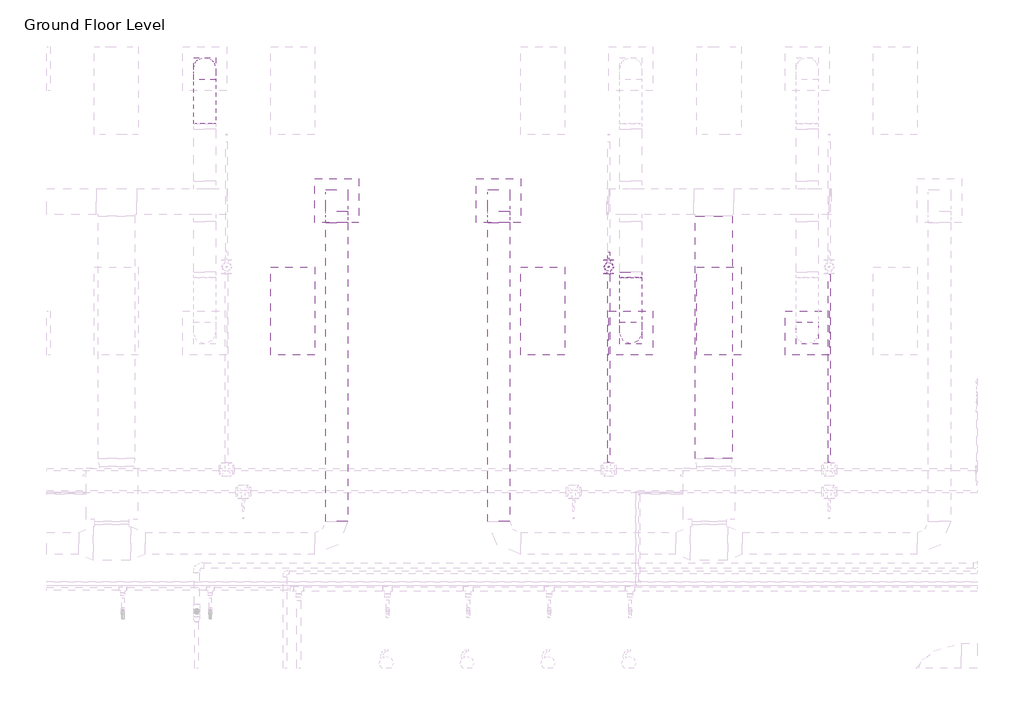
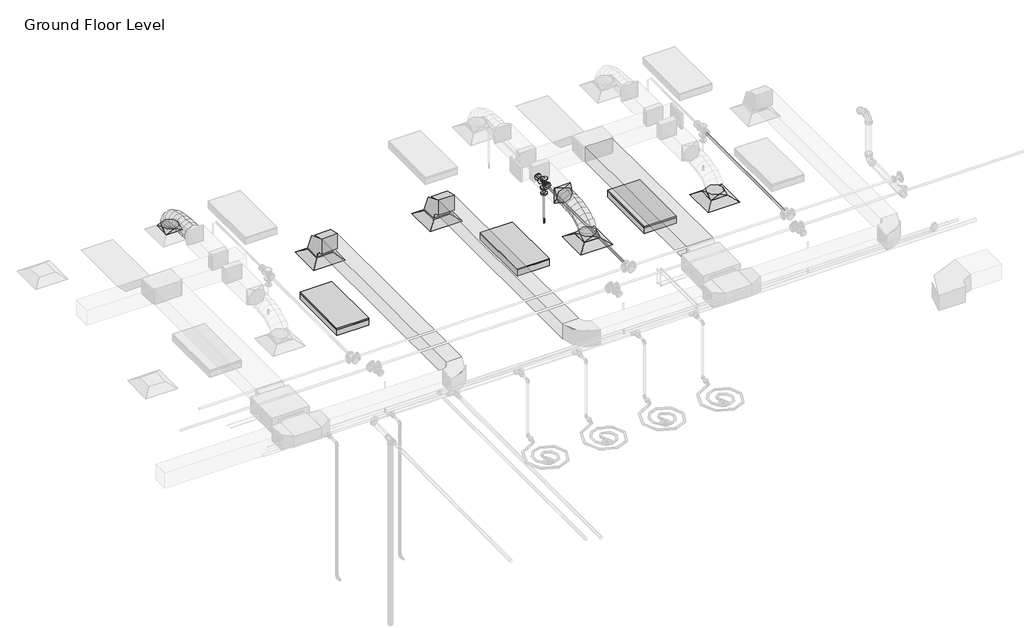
# One storey, part 57 of 75: 7 duct segments, 6 duct fittings, 4 air terminals, 3 light fixtures, 3 pipe fittings, 3 pipe segments, 1 fire suppression terminal.
"""IFC4 building model written with IfcOpenShell, lengths in millimetres."""

from ifc_helpers import new_model, si_unit, point, frame, frame_2d, origin, place, context, project, spatial, polyline, circle_curve, ellipse_curve, trimmed, segment, composite_curve, outline, extrude, transform, mapped, element, save
from ifc_brep_helpers import plane_surface, cylinder_surface, advanced_brep
from components import m_return_diffuser_600_x_600_face_300_x_300_connection_ff221211, m_rectangular_elbow_radius_1_w_618da153, m_rectangular_to_round_transition_angle_45_degree_641efff0, m_sprinkler_dry_pendent_hosted_15_mm_dry_pendent_9bda8e11, m_troffer_light_parabolic_rectangular1_0600x1200mm_4_lamp_86473d4a, m_reducer_flanged_cs_class_150_standard_d42b2106, m_tee_round_base_flanged_cs_class_150_standard_7e5987a1

model = new_model("IFC4")

# Units and contexts
model_context = context("Model", 3, world=origin())
ifc_project = project(units=[si_unit("LENGTHUNIT", "METRE", prefix="MILLI")], contexts=[model_context])

# Site, building, storey
site = spatial("IfcSite", under=ifc_project)
building = spatial("IfcBuilding", under=site)
storey = spatial("IfcBuildingStorey", under=building, Name="Ground Floor Level", Elevation=900.0)

# Air terminals
placement = place(None, origin())
m_return_diffuser_600_x_600_face_300_x_300_connection_shape = m_return_diffuser_600_x_600_face_300_x_300_connection_ff221211(model_context)
element("IfcAirTerminal", 1, ObjectType="M_Return Diffuser : 600 x 600 Face 300 x 300 Connection", at=placement, inside=storey, context=model_context, shape_type="MappedRepresentation", body=[
    mapped(m_return_diffuser_600_x_600_face_300_x_300_connection_shape, transform((-14937.2327605, 18735.2153534, 3650.0), x_axis=(1.0, 0.0, 0.0), y_axis=(0.0, 1.0, 0.0), z_axis=(0.0, 0.0, 1.0))),
])
element("IfcAirTerminal", 2, ObjectType="M_Return Diffuser : 600 x 600 Face 300 x 300 Connection", at=placement, inside=storey, context=model_context, shape_type="MappedRepresentation", body=[
    mapped(m_return_diffuser_600_x_600_face_300_x_300_connection_shape, transform((-12737.2327605, 18735.2153534, 3650.0), x_axis=(1.0, 0.0, 0.0), y_axis=(0.0, 1.0, 0.0), z_axis=(0.0, 0.0, 1.0))),
])
element("IfcAirTerminal", 3, ObjectType="M_Supply Diffuser : 600 x 600 Face 300 x 300 Connection", at=placement, inside=storey, context=model_context, shape_type="MappedRepresentation", body=[
    mapped(m_return_diffuser_600_x_600_face_300_x_300_connection_shape, transform((-10937.2327605, 16935.2153534, 3650.0), x_axis=(1.0, 0.0, 0.0), y_axis=(0.0, 1.0, 0.0), z_axis=(0.0, 0.0, 1.0))),
])
element("IfcAirTerminal", 4, ObjectType="M_Supply Diffuser : 600 x 600 Face 300 x 300 Connection", at=placement, inside=storey, context=model_context, shape_type="MappedRepresentation", body=[
    mapped(m_return_diffuser_600_x_600_face_300_x_300_connection_shape, transform((-8537.2327605, 16935.2153534, 3650.0), x_axis=(1.0, 0.0, 0.0), y_axis=(0.0, 1.0, 0.0), z_axis=(0.0, 0.0, 1.0))),
])

# Duct fittings
m_rectangular_elbow_radius_1_w_shape = m_rectangular_elbow_radius_1_w_618da153(model_context)
element("IfcDuctFitting", 5, ObjectType="M_Rectangular Elbow - Radius : 1 W", at=placement, inside=storey, context=model_context, shape_type="MappedRepresentation", body=[
    mapped(m_rectangular_elbow_radius_1_w_shape, transform((-14937.2327605, 18735.2153534, 4075.2881511), x_axis=(0.0, 0.0, 1.0), y_axis=(0.0, -1.0, 0.0), z_axis=(1.0, 0.0, 0.0))),
])
element("IfcDuctFitting", 6, ObjectType="M_Rectangular Elbow - Radius : 1 W", at=placement, inside=storey, context=model_context, shape_type="MappedRepresentation", body=[
    mapped(m_rectangular_elbow_radius_1_w_shape, transform((-12737.2327605, 18735.2153534, 4075.2872564), x_axis=(0.0, 0.0, 1.0), y_axis=(0.0, -1.0, 0.0), z_axis=(1.0, 0.0, 0.0))),
])
m_rectangular_to_round_transition_angle_45_degree_shape = m_rectangular_to_round_transition_angle_45_degree_641efff0(model_context)
element("IfcDuctFitting", 7, ObjectType="M_Rectangular to Round Transition - Angle : 45 Degree", at=placement, inside=storey, context=model_context, shape_type="MappedRepresentation", body=[
    mapped(m_rectangular_to_round_transition_angle_45_degree_shape, transform((-16737.2327605, 20535.2153534, 3751.6), x_axis=(0.0, 0.0, 1.0), y_axis=(-1.0, 0.0, 0.0), z_axis=(0.0, -1.0, 0.0))),
])
element("IfcDuctFitting", 8, ObjectType="M_Rectangular to Round Transition - Angle : 45 Degree", at=placement, inside=storey, context=model_context, shape_type="MappedRepresentation", body=[
    mapped(m_rectangular_to_round_transition_angle_45_degree_shape, transform((-10937.2327605, 16935.2153534, 3751.6), x_axis=(0.0, 0.0, 1.0), y_axis=(-1.0, 0.0, 0.0), z_axis=(0.0, -1.0, 0.0))),
])
element("IfcDuctFitting", 9, ObjectType="M_Rectangular to Round Transition - Angle : 45 Degree", at=placement, inside=storey, context=model_context, shape_type="MappedRepresentation", body=[
    mapped(m_rectangular_to_round_transition_angle_45_degree_shape, transform((-10937.2327605, 17762.5527048, 4099.9985799), x_axis=(0.0, -1.0, 0.0), y_axis=(1.0, 0.0, 0.0), z_axis=(0.0, 0.0, 1.0))),
])
element("IfcDuctFitting", 10, ObjectType="M_Rectangular to Round Transition - Angle : 45 Degree", at=placement, inside=storey, context=model_context, shape_type="MappedRepresentation", body=[
    mapped(m_rectangular_to_round_transition_angle_45_degree_shape, transform((-8537.2327605, 16935.2153534, 3751.6), x_axis=(0.0, 0.0, 1.0), y_axis=(-1.0, 0.0, 0.0), z_axis=(0.0, -1.0, 0.0))),
])

# Duct segments
element("IfcDuctSegment", 11, ObjectType="Flex - Round", at=placement, inside=storey, context=model_context, shape_type="AdvancedBrep", body=[
    advanced_brep(
    [(-16587.2327605, 20535.2153534, 3826.6), (-16737.2327605, 20385.2153534, 3826.6), (-16887.2327605, 20535.2153534, 3826.6), (-16737.2327605, 20685.2153534, 3826.6), (-16587.2327605, 20535.2153534, 3857.9377382), (-16737.2327605, 20385.2153534, 3832.2944832), (-16887.2327605, 20535.2153534, 3857.9377382), (-16737.2327605, 20685.2153534, 3883.5809933), (-16587.2327605, 20518.1994031, 3906.2505845), (-16737.2327605, 20384.4614644, 3834.4349763), (-16887.2327605, 20518.1994031, 3906.2505845), (-16737.2327605, 20651.9373419, 3978.0661927), (-16587.2327605, 20471.0154746, 3968.7112839), (-16737.2327605, 20366.8096846, 3857.8018842), (-16887.2327605, 20471.0154746, 3968.7112839), (-16737.2327605, 20575.2212646, 4079.6206836), (-16587.2327605, 20399.4594512, 4016.069955), (-16737.2327605, 20330.5255676, 3881.8161806), (-16887.2327605, 20399.4594512, 4016.069955), (-16737.2327605, 20468.3933347, 4150.3237294), (-16587.2327605, 20309.3272161, 4050.4144545), (-16737.2327605, 20265.7666411, 3906.4922903), (-16887.2327605, 20309.3272161, 4050.4144545), (-16737.2327605, 20352.8877912, 4194.3366186), (-16587.2327605, 20206.4146528, 4073.832639), (-16737.2327605, 20179.8539072, 3926.0420925), (-16887.2327605, 20206.4146528, 4073.832639), (-16737.2327605, 20232.9753985, 4221.6231855), (-16587.2327605, 20096.5176446, 4088.4123653), (-16737.2327605, 20081.3668973, 3939.1080865), (-16887.2327605, 20096.5176446, 4088.4123653), (-16737.2327605, 20111.668392, 4237.7166441), (-16587.2327605, 19985.4320749, 4096.2414901), (-16737.2327605, 19977.9268673, 3946.3983665), (-16887.2327605, 19985.4320749, 4096.2414901), (-16737.2327605, 19992.9372825, 4246.0846137), (-16587.2327605, 19878.9538269, 4099.4078701), (-16737.2327605, 19876.2624046, 3949.4215972), (-16887.2327605, 19878.9538269, 4099.4078701), (-16737.2327605, 19881.6452491, 4249.3941429), (-16587.2327605, 19782.878784, 4099.9993619), (-16737.2327605, 19783.8022506, 4249.9965192), (-16887.2327605, 19782.878784, 4099.9993619), (-16737.2327605, 19781.9553174, 3950.0022045)],
    [
        (0, 1, circle_curve(frame((-16737.2327605, 20535.2153534, 3826.6), z_axis=(0.0, 0.0, -1.0), x_axis=(1.0, 0.0, 0.0)), 150.0)),
        (1, 2, circle_curve(frame((-16737.2327605, 20535.2153534, 3826.6), z_axis=(0.0, 0.0, -1.0), x_axis=(1.0, 0.0, 0.0)), 150.0)),
        (2, 3, circle_curve(frame((-16737.2327605, 20535.2153534, 3826.6), z_axis=(0.0, 0.0, -1.0), x_axis=(1.0, 0.0, 0.0)), 150.0)),
        (3, 0, circle_curve(frame((-16737.2327605, 20535.2153534, 3826.6), z_axis=(0.0, 0.0, -1.0), x_axis=(1.0, 0.0, 0.0)), 150.0)),
        (0, 4),
        (4, 5, ellipse_curve(frame((-16737.2327605, 20535.2153534, 3857.9377382), z_axis=(0.0, 0.16851035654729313, -0.9856998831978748), x_axis=(0.0, -0.9856998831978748, -0.16851035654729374)), 152.1761365, 150.0)),
        (5, 1),
        (5, 6, ellipse_curve(frame((-16737.2327605, 20535.2153534, 3857.9377382), z_axis=(0.0, 0.16851035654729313, -0.9856998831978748), x_axis=(0.0, -0.9856998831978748, -0.16851035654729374)), 152.1761365, 150.0)),
        (6, 2),
        (6, 7, ellipse_curve(frame((-16737.2327605, 20535.2153534, 3857.9377382), z_axis=(0.0, 0.16851035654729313, -0.9856998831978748), x_axis=(0.0, -0.9856998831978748, -0.16851035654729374)), 152.1761365, 150.0)),
        (7, 3),
        (7, 4, ellipse_curve(frame((-16737.2327605, 20535.2153534, 3857.9377382), z_axis=(0.0, 0.16851035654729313, -0.9856998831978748), x_axis=(0.0, -0.9856998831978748, -0.16851035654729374)), 152.1761365, 150.0)),
        (4, 8),
        (8, 9, ellipse_curve(frame((-16737.2327605, 20518.1994031, 3906.2505845), z_axis=(0.0, 0.47309279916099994, -0.8810126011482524), x_axis=(0.0, -0.8810126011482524, -0.4730927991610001)), 151.8002564, 150.0)),
        (9, 5),
        (9, 10, ellipse_curve(frame((-16737.2327605, 20518.1994031, 3906.2505845), z_axis=(0.0, 0.47309279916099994, -0.8810126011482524), x_axis=(0.0, -0.8810126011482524, -0.4730927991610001)), 151.8002564, 150.0)),
        (10, 6),
        (10, 11, ellipse_curve(frame((-16737.2327605, 20518.1994031, 3906.2505845), z_axis=(0.0, 0.47309279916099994, -0.8810126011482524), x_axis=(0.0, -0.8810126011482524, -0.4730927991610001)), 151.8002564, 150.0)),
        (11, 7),
        (11, 8, ellipse_curve(frame((-16737.2327605, 20518.1994031, 3906.2505845), z_axis=(0.0, 0.47309279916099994, -0.8810126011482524), x_axis=(0.0, -0.8810126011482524, -0.4730927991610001)), 151.8002564, 150.0)),
        (8, 12),
        (12, 13, ellipse_curve(frame((-16737.2327605, 20471.0154746, 3968.7112839), z_axis=(0.0, 0.7287884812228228, -0.6847388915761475), x_axis=(0.0, -0.6847388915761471, -0.7287884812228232)), 152.1832501, 150.0)),
        (13, 9),
        (13, 14, ellipse_curve(frame((-16737.2327605, 20471.0154746, 3968.7112839), z_axis=(0.0, 0.7287884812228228, -0.6847388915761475), x_axis=(0.0, -0.6847388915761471, -0.7287884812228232)), 152.1832501, 150.0)),
        (14, 10),
        (14, 15, ellipse_curve(frame((-16737.2327605, 20471.0154746, 3968.7112839), z_axis=(0.0, 0.7287884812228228, -0.6847388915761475), x_axis=(0.0, -0.6847388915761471, -0.7287884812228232)), 152.1832501, 150.0)),
        (15, 11),
        (15, 12, ellipse_curve(frame((-16737.2327605, 20471.0154746, 3968.7112839), z_axis=(0.0, 0.7287884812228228, -0.6847388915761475), x_axis=(0.0, -0.6847388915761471, -0.7287884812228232)), 152.1832501, 150.0)),
        (12, 16),
        (16, 17, ellipse_curve(frame((-16737.2327605, 20399.4594512, 4016.069955), z_axis=(0.0, 0.8895865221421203, -0.4567667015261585), x_axis=(0.0, -0.45676670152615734, -0.8895865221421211)), 150.9170508, 150.0)),
        (17, 13),
        (17, 18, ellipse_curve(frame((-16737.2327605, 20399.4594512, 4016.069955), z_axis=(0.0, 0.8895865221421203, -0.4567667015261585), x_axis=(0.0, -0.45676670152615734, -0.8895865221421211)), 150.9170508, 150.0)),
        (18, 14),
        (18, 19, ellipse_curve(frame((-16737.2327605, 20399.4594512, 4016.069955), z_axis=(0.0, 0.8895865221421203, -0.4567667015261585), x_axis=(0.0, -0.45676670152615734, -0.8895865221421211)), 150.9170508, 150.0)),
        (19, 15),
        (19, 16, ellipse_curve(frame((-16737.2327605, 20399.4594512, 4016.069955), z_axis=(0.0, 0.8895865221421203, -0.4567667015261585), x_axis=(0.0, -0.45676670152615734, -0.8895865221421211)), 150.9170508, 150.0)),
        (16, 20),
        (20, 21, ellipse_curve(frame((-16737.2327605, 20309.3272161, 4050.4144545), z_axis=(0.0, 0.9571207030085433, -0.28968941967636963), x_axis=(0.0, -0.2896894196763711, -0.9571207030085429)), 150.3699206, 150.0)),
        (21, 17),
        (21, 22, ellipse_curve(frame((-16737.2327605, 20309.3272161, 4050.4144545), z_axis=(0.0, 0.9571207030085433, -0.28968941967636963), x_axis=(0.0, -0.2896894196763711, -0.9571207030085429)), 150.3699206, 150.0)),
        (22, 18),
        (22, 23, ellipse_curve(frame((-16737.2327605, 20309.3272161, 4050.4144545), z_axis=(0.0, 0.9571207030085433, -0.28968941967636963), x_axis=(0.0, -0.2896894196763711, -0.9571207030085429)), 150.3699206, 150.0)),
        (23, 19),
        (23, 20, ellipse_curve(frame((-16737.2327605, 20309.3272161, 4050.4144545), z_axis=(0.0, 0.9571207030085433, -0.28968941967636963), x_axis=(0.0, -0.2896894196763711, -0.9571207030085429)), 150.3699206, 150.0)),
        (20, 24),
        (24, 25, ellipse_curve(frame((-16737.2327605, 20206.4146528, 4073.832639), z_axis=(0.0, 0.9842315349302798, -0.17688495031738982), x_axis=(0.0, -0.1768849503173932, -0.9842315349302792)), 150.1583126, 150.0)),
        (25, 21),
        (25, 26, ellipse_curve(frame((-16737.2327605, 20206.4146528, 4073.832639), z_axis=(0.0, 0.9842315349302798, -0.17688495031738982), x_axis=(0.0, -0.1768849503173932, -0.9842315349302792)), 150.1583126, 150.0)),
        (26, 22),
        (26, 27, ellipse_curve(frame((-16737.2327605, 20206.4146528, 4073.832639), z_axis=(0.0, 0.9842315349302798, -0.17688495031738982), x_axis=(0.0, -0.1768849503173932, -0.9842315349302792)), 150.1583126, 150.0)),
        (27, 23),
        (27, 24, ellipse_curve(frame((-16737.2327605, 20206.4146528, 4073.832639), z_axis=(0.0, 0.9842315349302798, -0.17688495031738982), x_axis=(0.0, -0.1768849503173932, -0.9842315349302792)), 150.1583126, 150.0)),
        (24, 28),
        (28, 29, ellipse_curve(frame((-16737.2327605, 20096.5176446, 4088.4123653), z_axis=(0.0, 0.9948907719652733, -0.10095717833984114), x_axis=(0.0, -0.10095717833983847, -0.9948907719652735)), 150.0710259, 150.0)),
        (29, 25),
        (29, 30, ellipse_curve(frame((-16737.2327605, 20096.5176446, 4088.4123653), z_axis=(0.0, 0.9948907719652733, -0.10095717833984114), x_axis=(0.0, -0.10095717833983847, -0.9948907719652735)), 150.0710259, 150.0)),
        (30, 26),
        (30, 31, ellipse_curve(frame((-16737.2327605, 20096.5176446, 4088.4123653), z_axis=(0.0, 0.9948907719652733, -0.10095717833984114), x_axis=(0.0, -0.10095717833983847, -0.9948907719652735)), 150.0710259, 150.0)),
        (31, 27),
        (31, 28, ellipse_curve(frame((-16737.2327605, 20096.5176446, 4088.4123653), z_axis=(0.0, 0.9948907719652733, -0.10095717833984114), x_axis=(0.0, -0.10095717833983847, -0.9948907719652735)), 150.0710259, 150.0)),
        (28, 32),
        (32, 33, ellipse_curve(frame((-16737.2327605, 19985.4320749, 4096.2414901), z_axis=(0.0, 0.9987479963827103, -0.050024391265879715), x_axis=(0.0, -0.05002439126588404, -0.9987479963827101)), 150.0309629, 150.0)),
        (33, 29),
        (33, 34, ellipse_curve(frame((-16737.2327605, 19985.4320749, 4096.2414901), z_axis=(0.0, 0.9987479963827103, -0.050024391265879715), x_axis=(0.0, -0.05002439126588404, -0.9987479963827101)), 150.0309629, 150.0)),
        (34, 30),
        (34, 35, ellipse_curve(frame((-16737.2327605, 19985.4320749, 4096.2414901), z_axis=(0.0, 0.9987479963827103, -0.050024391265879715), x_axis=(0.0, -0.05002439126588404, -0.9987479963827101)), 150.0309629, 150.0)),
        (35, 31),
        (35, 32, ellipse_curve(frame((-16737.2327605, 19985.4320749, 4096.2414901), z_axis=(0.0, 0.9987479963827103, -0.050024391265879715), x_axis=(0.0, -0.05002439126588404, -0.9987479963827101)), 150.0309629, 150.0)),
        (32, 36),
        (36, 37, ellipse_curve(frame((-16737.2327605, 19878.9538269, 4099.4078701), z_axis=(0.0, 0.9998390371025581, -0.01794156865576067), x_axis=(0.0, -0.017941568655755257, -0.9998390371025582)), 150.0104189, 150.0)),
        (37, 33),
        (37, 38, ellipse_curve(frame((-16737.2327605, 19878.9538269, 4099.4078701), z_axis=(0.0, 0.9998390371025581, -0.01794156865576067), x_axis=(0.0, -0.017941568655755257, -0.9998390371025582)), 150.0104189, 150.0)),
        (38, 34),
        (38, 39, ellipse_curve(frame((-16737.2327605, 19878.9538269, 4099.4078701), z_axis=(0.0, 0.9998390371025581, -0.01794156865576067), x_axis=(0.0, -0.017941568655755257, -0.9998390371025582)), 150.0104189, 150.0)),
        (39, 35),
        (39, 36, ellipse_curve(frame((-16737.2327605, 19878.9538269, 4099.4078701), z_axis=(0.0, 0.9998390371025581, -0.01794156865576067), x_axis=(0.0, -0.017941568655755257, -0.9998390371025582)), 150.0104189, 150.0)),
        (40, 41, circle_curve(frame((-16737.2327605, 19782.878784, 4099.9993619), z_axis=(0.0, -0.9999810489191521, 0.0061564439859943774), x_axis=(1.0, 0.0, 0.0)), 150.0)),
        (41, 42, circle_curve(frame((-16737.2327605, 19782.878784, 4099.9993619), z_axis=(0.0, -0.9999810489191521, 0.0061564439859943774), x_axis=(1.0, 0.0, 0.0)), 150.0)),
        (42, 43, circle_curve(frame((-16737.2327605, 19782.878784, 4099.9993619), z_axis=(0.0, -0.9999810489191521, 0.0061564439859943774), x_axis=(1.0, 0.0, 0.0)), 150.0)),
        (43, 40, circle_curve(frame((-16737.2327605, 19782.878784, 4099.9993619), z_axis=(0.0, -0.9999810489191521, 0.0061564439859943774), x_axis=(1.0, 0.0, 0.0)), 150.0)),
        (36, 40),
        (43, 37),
        (42, 38),
        (41, 39),
    ],
    [
        plane_surface(frame((-16737.2327605, 20385.2153534, 3826.6), z_axis=(0.0, 0.0, -1.0), x_axis=(1.0, 0.0, 0.0))),
        cylinder_surface(frame((-16737.2327605, 20535.2153534, 3826.6), z_axis=(0.0, 0.0, -1.0), x_axis=(1.0, 0.0, 0.0)), 150.0),
        cylinder_surface(frame((-16737.2327605, 20535.2153534, 3857.9377382), z_axis=(0.0, 0.33220127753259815, -0.9432085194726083), x_axis=(1.0, 0.0, 0.0)), 150.0),
        cylinder_surface(frame((-16737.2327605, 20518.1994031, 3906.2505845), z_axis=(0.0, 0.6027631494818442, -0.79792016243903), x_axis=(1.0, 0.0, 0.0)), 150.0),
        cylinder_surface(frame((-16737.2327605, 20471.0154746, 3968.7112839), z_axis=(0.0, 0.833903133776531, -0.5519108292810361), x_axis=(1.0, 0.0, 0.0)), 150.0),
        cylinder_surface(frame((-16737.2327605, 20399.4594512, 4016.069955), z_axis=(0.0, 0.9344587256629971, -0.3560714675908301), x_axis=(1.0, 0.0, 0.0)), 150.0),
        cylinder_surface(frame((-16737.2327605, 20309.3272161, 4050.4144545), z_axis=(0.0, 0.9750735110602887, -0.22188205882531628), x_axis=(1.0, 0.0, 0.0)), 150.0),
        cylinder_surface(frame((-16737.2327605, 20206.4146528, 4073.832639), z_axis=(0.0, 0.9913141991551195, -0.13151486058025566), x_axis=(1.0, 0.0, 0.0)), 150.0),
        cylinder_surface(frame((-16737.2327605, 20096.5176446, 4088.4123653), z_axis=(0.0, 0.997525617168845, -0.07030393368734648), x_axis=(1.0, 0.0, 0.0)), 150.0),
        cylinder_surface(frame((-16737.2327605, 19985.4320749, 4096.2414901), z_axis=(0.0, 0.9995581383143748, -0.029724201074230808), x_axis=(1.0, 0.0, 0.0)), 150.0),
        plane_surface(frame((-16737.2327605, 19781.9553174, 3950.0022045), z_axis=(0.0, -0.999981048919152, 0.0061564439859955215), x_axis=(1.0, 0.0, 0.0))),
        cylinder_surface(frame((-16737.2327605, 19878.9538269, 4099.4078701), z_axis=(0.0, 0.9999810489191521, -0.0061564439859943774), x_axis=(1.0, 0.0, 0.0)), 150.0),
    ],
    [
        (0, [[1, 2, 3, 4]]),
        (1, [[-1, 5, 6, 7]]),
        (1, [[-2, -7, 8, 9]]),
        (1, [[-3, -9, 10, 11]]),
        (1, [[-4, -11, 12, -5]]),
        (2, [[-6, 13, 14, 15]]),
        (2, [[-8, -15, 16, 17]]),
        (2, [[-10, -17, 18, 19]]),
        (2, [[-12, -19, 20, -13]]),
        (3, [[-14, 21, 22, 23]]),
        (3, [[-16, -23, 24, 25]]),
        (3, [[-18, -25, 26, 27]]),
        (3, [[-20, -27, 28, -21]]),
        (4, [[-22, 29, 30, 31]]),
        (4, [[-24, -31, 32, 33]]),
        (4, [[-26, -33, 34, 35]]),
        (4, [[-28, -35, 36, -29]]),
        (5, [[-30, 37, 38, 39]]),
        (5, [[-32, -39, 40, 41]]),
        (5, [[-34, -41, 42, 43]]),
        (5, [[-36, -43, 44, -37]]),
        (6, [[-38, 45, 46, 47]]),
        (6, [[-40, -47, 48, 49]]),
        (6, [[-42, -49, 50, 51]]),
        (6, [[-44, -51, 52, -45]]),
        (7, [[-46, 53, 54, 55]]),
        (7, [[-48, -55, 56, 57]]),
        (7, [[-50, -57, 58, 59]]),
        (7, [[-52, -59, 60, -53]]),
        (8, [[-54, 61, 62, 63]]),
        (8, [[-56, -63, 64, 65]]),
        (8, [[-58, -65, 66, 67]]),
        (8, [[-60, -67, 68, -61]]),
        (9, [[-62, 69, 70, 71]]),
        (9, [[-64, -71, 72, 73]]),
        (9, [[-66, -73, 74, 75]]),
        (9, [[-68, -75, 76, -69]]),
        (10, [[77, 78, 79, 80]]),
        (11, [[-70, 81, -80, 82]]),
        (11, [[-72, -82, -79, 83]]),
        (11, [[-74, -83, -78, 84]]),
        (11, [[-76, -84, -77, -81]]),
    ],
),
])
element("IfcDuctSegment", 12, ObjectType="Flex - Round", at=placement, inside=storey, context=model_context, shape_type="AdvancedBrep", body=[
    advanced_brep(
    [(-10787.2327605, 16935.2153534, 3826.6), (-10937.2327605, 16785.2153534, 3826.6), (-11087.2327605, 16935.2153534, 3826.6), (-10937.2327605, 17085.2153534, 3826.6), (-10787.2327605, 16935.2153534, 3857.9377711), (-10937.2327605, 16785.2153534, 3883.5810662), (-11087.2327605, 16935.2153534, 3857.9377711), (-10937.2327605, 17085.2153534, 3832.2944759), (-10787.2327605, 16952.2313253, 3906.2505987), (-10937.2327605, 16818.4934358, 3978.0663103), (-11087.2327605, 16952.2313253, 3906.2505987), (-10937.2327605, 17085.9692148, 3834.4348871), (-10787.2327605, 16999.4153129, 3968.7112481), (-10937.2327605, 16895.2096567, 4079.620783), (-11087.2327605, 16999.4153129, 3968.7112481), (-10937.2327605, 17103.620969, 3857.8017132), (-10787.2327605, 17070.9714237, 4016.0698216), (-10937.2327605, 17002.0377511, 4150.3237055), (-11087.2327605, 17070.9714237, 4016.0698216), (-10937.2327605, 17139.9050963, 3881.8159377), (-10787.2327605, 17161.1037654, 4050.4141926), (-10937.2327605, 17117.5434209, 4194.3364261), (-11087.2327605, 17161.1037654, 4050.4141926), (-10937.2327605, 17204.6641099, 3906.491959), (-10787.2327605, 17264.0164456, 4073.8322345), (-10937.2327605, 17237.4559185, 4221.6228196), (-11087.2327605, 17264.0164456, 4073.8322345), (-10937.2327605, 17290.5769728, 3926.0416493), (-10787.2327605, 17373.9135721, 4088.4118207), (-10937.2327605, 17358.7630147, 4237.7161183), (-11087.2327605, 17373.9135721, 4088.4118207), (-10937.2327605, 17389.0641294, 3939.1075232), (-10787.2327605, 17484.9992523, 4096.2408248), (-10937.2327605, 17477.4941925, 4246.0839553), (-11087.2327605, 17484.9992523, 4096.2408248), (-10937.2327605, 17492.5043121, 3946.3976942), (-10787.2327605, 17591.477594, 4099.40712), (-10937.2327605, 17588.7862586, 4249.393394), (-11087.2327605, 17591.477594, 4099.40712), (-10937.2327605, 17594.1689294, 3949.4208461), (-10787.2327605, 17687.5527048, 4099.9985799), (-10937.2327605, 17688.4761208, 3950.0014223), (-11087.2327605, 17687.5527048, 4099.9985799), (-10937.2327605, 17686.6292887, 4249.9957376)],
    [
        (0, 1, circle_curve(frame((-10937.2327605, 16935.2153534, 3826.6), z_axis=(0.0, 0.0, -1.0), x_axis=(1.0, 0.0, 0.0)), 150.0)),
        (1, 2, circle_curve(frame((-10937.2327605, 16935.2153534, 3826.6), z_axis=(0.0, 0.0, -1.0), x_axis=(1.0, 0.0, 0.0)), 150.0)),
        (2, 3, circle_curve(frame((-10937.2327605, 16935.2153534, 3826.6), z_axis=(0.0, 0.0, -1.0), x_axis=(1.0, 0.0, 0.0)), 150.0)),
        (3, 0, circle_curve(frame((-10937.2327605, 16935.2153534, 3826.6), z_axis=(0.0, 0.0, -1.0), x_axis=(1.0, 0.0, 0.0)), 150.0)),
        (0, 4),
        (4, 5, ellipse_curve(frame((-10937.2327605, 16935.2153534, 3857.9377711), z_axis=(0.0, -0.1685106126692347, -0.9856998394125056), x_axis=(0.0, 0.9856998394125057, -0.16851061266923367)), 152.1761433, 150.0)),
        (5, 1),
        (5, 6, ellipse_curve(frame((-10937.2327605, 16935.2153534, 3857.9377711), z_axis=(0.0, -0.1685106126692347, -0.9856998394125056), x_axis=(0.0, 0.9856998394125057, -0.16851061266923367)), 152.1761433, 150.0)),
        (6, 2),
        (6, 7, ellipse_curve(frame((-10937.2327605, 16935.2153534, 3857.9377711), z_axis=(0.0, -0.1685106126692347, -0.9856998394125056), x_axis=(0.0, 0.9856998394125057, -0.16851061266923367)), 152.1761433, 150.0)),
        (7, 3),
        (7, 4, ellipse_curve(frame((-10937.2327605, 16935.2153534, 3857.9377711), z_axis=(0.0, -0.1685106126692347, -0.9856998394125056), x_axis=(0.0, 0.9856998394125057, -0.16851061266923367)), 152.1761433, 150.0)),
        (4, 8),
        (8, 9, ellipse_curve(frame((-10937.2327605, 16952.2313253, 3906.2505987), z_axis=(0.0, -0.4730934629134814, -0.8810122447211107), x_axis=(0.0, 0.8810122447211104, -0.473093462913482)), 151.8002619, 150.0)),
        (9, 5),
        (9, 10, ellipse_curve(frame((-10937.2327605, 16952.2313253, 3906.2505987), z_axis=(0.0, -0.4730934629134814, -0.8810122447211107), x_axis=(0.0, 0.8810122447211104, -0.473093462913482)), 151.8002619, 150.0)),
        (10, 6),
        (10, 11, ellipse_curve(frame((-10937.2327605, 16952.2313253, 3906.2505987), z_axis=(0.0, -0.4730934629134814, -0.8810122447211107), x_axis=(0.0, 0.8810122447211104, -0.473093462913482)), 151.8002619, 150.0)),
        (11, 7),
        (11, 8, ellipse_curve(frame((-10937.2327605, 16952.2313253, 3906.2505987), z_axis=(0.0, -0.4730934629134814, -0.8810122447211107), x_axis=(0.0, 0.8810122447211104, -0.473093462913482)), 151.8002619, 150.0)),
        (8, 12),
        (12, 13, ellipse_curve(frame((-10937.2327605, 16999.4153129, 3968.7112481), z_axis=(0.0, -0.728789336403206, -0.6847379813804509), x_axis=(0.0, 0.6847379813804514, -0.7287893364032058)), 152.183257, 150.0)),
        (13, 9),
        (13, 14, ellipse_curve(frame((-10937.2327605, 16999.4153129, 3968.7112481), z_axis=(0.0, -0.728789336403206, -0.6847379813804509), x_axis=(0.0, 0.6847379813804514, -0.7287893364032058)), 152.183257, 150.0)),
        (14, 10),
        (14, 15, ellipse_curve(frame((-10937.2327605, 16999.4153129, 3968.7112481), z_axis=(0.0, -0.728789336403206, -0.6847379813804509), x_axis=(0.0, 0.6847379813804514, -0.7287893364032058)), 152.183257, 150.0)),
        (15, 11),
        (15, 12, ellipse_curve(frame((-10937.2327605, 16999.4153129, 3968.7112481), z_axis=(0.0, -0.728789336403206, -0.6847379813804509), x_axis=(0.0, 0.6847379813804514, -0.7287893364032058)), 152.183257, 150.0)),
        (12, 16),
        (16, 17, ellipse_curve(frame((-10937.2327605, 17070.9714237, 4016.0698216), z_axis=(0.0, -0.8895872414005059, -0.45676530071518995), x_axis=(0.0, 0.4567653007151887, -0.8895872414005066)), 150.9170519, 150.0)),
        (17, 13),
        (17, 18, ellipse_curve(frame((-10937.2327605, 17070.9714237, 4016.0698216), z_axis=(0.0, -0.8895872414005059, -0.45676530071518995), x_axis=(0.0, 0.4567653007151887, -0.8895872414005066)), 150.9170519, 150.0)),
        (18, 14),
        (18, 19, ellipse_curve(frame((-10937.2327605, 17070.9714237, 4016.0698216), z_axis=(0.0, -0.8895872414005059, -0.45676530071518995), x_axis=(0.0, 0.4567653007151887, -0.8895872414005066)), 150.9170519, 150.0)),
        (19, 15),
        (19, 16, ellipse_curve(frame((-10937.2327605, 17070.9714237, 4016.0698216), z_axis=(0.0, -0.8895872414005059, -0.45676530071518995), x_axis=(0.0, 0.4567653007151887, -0.8895872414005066)), 150.9170519, 150.0)),
        (16, 20),
        (20, 21, ellipse_curve(frame((-10937.2327605, 17161.1037654, 4050.4141926), z_axis=(0.0, -0.9571211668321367, -0.28968788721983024), x_axis=(0.0, 0.2896878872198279, -0.9571211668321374)), 150.3699202, 150.0)),
        (21, 17),
        (21, 22, ellipse_curve(frame((-10937.2327605, 17161.1037654, 4050.4141926), z_axis=(0.0, -0.9571211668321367, -0.28968788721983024), x_axis=(0.0, 0.2896878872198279, -0.9571211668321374)), 150.3699202, 150.0)),
        (22, 18),
        (22, 23, ellipse_curve(frame((-10937.2327605, 17161.1037654, 4050.4141926), z_axis=(0.0, -0.9571211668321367, -0.28968788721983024), x_axis=(0.0, 0.2896878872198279, -0.9571211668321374)), 150.3699202, 150.0)),
        (23, 19),
        (23, 20, ellipse_curve(frame((-10937.2327605, 17161.1037654, 4050.4141926), z_axis=(0.0, -0.9571211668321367, -0.28968788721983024), x_axis=(0.0, 0.2896878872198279, -0.9571211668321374)), 150.3699202, 150.0)),
        (20, 24),
        (24, 25, ellipse_curve(frame((-10937.2327605, 17264.0164456, 4073.8322345), z_axis=(0.0, -0.9842317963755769, -0.17688349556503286), x_axis=(0.0, 0.17688349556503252, -0.9842317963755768)), 150.158312, 150.0)),
        (25, 21),
        (25, 26, ellipse_curve(frame((-10937.2327605, 17264.0164456, 4073.8322345), z_axis=(0.0, -0.9842317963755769, -0.17688349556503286), x_axis=(0.0, 0.17688349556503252, -0.9842317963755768)), 150.158312, 150.0)),
        (26, 22),
        (26, 27, ellipse_curve(frame((-10937.2327605, 17264.0164456, 4073.8322345), z_axis=(0.0, -0.9842317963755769, -0.17688349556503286), x_axis=(0.0, 0.17688349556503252, -0.9842317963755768)), 150.158312, 150.0)),
        (27, 23),
        (27, 24, ellipse_curve(frame((-10937.2327605, 17264.0164456, 4073.8322345), z_axis=(0.0, -0.9842317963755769, -0.17688349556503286), x_axis=(0.0, 0.17688349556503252, -0.9842317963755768)), 150.158312, 150.0)),
        (24, 28),
        (28, 29, ellipse_curve(frame((-10937.2327605, 17373.9135721, 4088.4118207), z_axis=(0.0, -0.9948909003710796, -0.10095591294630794), x_axis=(0.0, 0.10095591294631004, -0.9948909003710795)), 150.0710253, 150.0)),
        (29, 25),
        (29, 30, ellipse_curve(frame((-10937.2327605, 17373.9135721, 4088.4118207), z_axis=(0.0, -0.9948909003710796, -0.10095591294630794), x_axis=(0.0, 0.10095591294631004, -0.9948909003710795)), 150.0710253, 150.0)),
        (30, 26),
        (30, 31, ellipse_curve(frame((-10937.2327605, 17373.9135721, 4088.4118207), z_axis=(0.0, -0.9948909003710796, -0.10095591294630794), x_axis=(0.0, 0.10095591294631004, -0.9948909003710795)), 150.0710253, 150.0)),
        (31, 27),
        (31, 28, ellipse_curve(frame((-10937.2327605, 17373.9135721, 4088.4118207), z_axis=(0.0, -0.9948909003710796, -0.10095591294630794), x_axis=(0.0, 0.10095591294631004, -0.9948909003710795)), 150.0710253, 150.0)),
        (28, 32),
        (32, 33, ellipse_curve(frame((-10937.2327605, 17484.9992523, 4096.2408248), z_axis=(0.0, -0.998748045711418, -0.0500234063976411), x_axis=(0.0, 0.050023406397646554, -0.9987480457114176)), 150.0309624, 150.0)),
        (33, 29),
        (33, 34, ellipse_curve(frame((-10937.2327605, 17484.9992523, 4096.2408248), z_axis=(0.0, -0.998748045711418, -0.0500234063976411), x_axis=(0.0, 0.050023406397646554, -0.9987480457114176)), 150.0309624, 150.0)),
        (34, 30),
        (34, 35, ellipse_curve(frame((-10937.2327605, 17484.9992523, 4096.2408248), z_axis=(0.0, -0.998748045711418, -0.0500234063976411), x_axis=(0.0, 0.050023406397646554, -0.9987480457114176)), 150.0309624, 150.0)),
        (35, 31),
        (35, 32, ellipse_curve(frame((-10937.2327605, 17484.9992523, 4096.2408248), z_axis=(0.0, -0.998748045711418, -0.0500234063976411), x_axis=(0.0, 0.050023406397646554, -0.9987480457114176)), 150.0309624, 150.0)),
        (32, 36),
        (36, 37, ellipse_curve(frame((-10937.2327605, 17591.477594, 4099.40712), z_axis=(0.0, -0.9998390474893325, -0.01794098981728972), x_axis=(0.0, 0.017940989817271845, -0.9998390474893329)), 150.0104185, 150.0)),
        (37, 33),
        (37, 38, ellipse_curve(frame((-10937.2327605, 17591.477594, 4099.40712), z_axis=(0.0, -0.9998390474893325, -0.01794098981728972), x_axis=(0.0, 0.017940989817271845, -0.9998390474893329)), 150.0104185, 150.0)),
        (38, 34),
        (38, 39, ellipse_curve(frame((-10937.2327605, 17591.477594, 4099.40712), z_axis=(0.0, -0.9998390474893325, -0.01794098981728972), x_axis=(0.0, 0.017940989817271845, -0.9998390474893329)), 150.0104185, 150.0)),
        (39, 35),
        (39, 36, ellipse_curve(frame((-10937.2327605, 17591.477594, 4099.40712), z_axis=(0.0, -0.9998390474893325, -0.01794098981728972), x_axis=(0.0, 0.017940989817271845, -0.9998390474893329)), 150.0104185, 150.0)),
        (40, 41, circle_curve(frame((-10937.2327605, 17687.5527048, 4099.9985799), z_axis=(0.0, 0.9999810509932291, 0.00615610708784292), x_axis=(1.0, 0.0, 0.0)), 150.0)),
        (41, 42, circle_curve(frame((-10937.2327605, 17687.5527048, 4099.9985799), z_axis=(0.0, 0.9999810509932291, 0.00615610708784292), x_axis=(1.0, 0.0, 0.0)), 150.0)),
        (42, 43, circle_curve(frame((-10937.2327605, 17687.5527048, 4099.9985799), z_axis=(0.0, 0.9999810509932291, 0.00615610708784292), x_axis=(1.0, 0.0, 0.0)), 150.0)),
        (43, 40, circle_curve(frame((-10937.2327605, 17687.5527048, 4099.9985799), z_axis=(0.0, 0.9999810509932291, 0.00615610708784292), x_axis=(1.0, 0.0, 0.0)), 150.0)),
        (36, 40),
        (43, 37),
        (42, 38),
        (41, 39),
    ],
    [
        plane_surface(frame((-10937.2327605, 16785.2153534, 3826.6), z_axis=(0.0, 0.0, -1.0), x_axis=(1.0, 0.0, 0.0))),
        cylinder_surface(frame((-10937.2327605, 16935.2153534, 3826.6), z_axis=(0.0, 0.0, -1.0), x_axis=(1.0, 0.0, 0.0)), 150.0),
        cylinder_surface(frame((-10937.2327605, 16935.2153534, 3857.9377711), z_axis=(0.0, -0.3322017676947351, -0.9432083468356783), x_axis=(1.0, 0.0, 0.0)), 150.0),
        cylinder_surface(frame((-10937.2327605, 16952.2313253, 3906.2505987), z_axis=(0.0, -0.6027639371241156, -0.7979195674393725), x_axis=(1.0, 0.0, 0.0)), 150.0),
        cylinder_surface(frame((-10937.2327605, 16999.4153129, 3968.7112481), z_axis=(0.0, -0.8339039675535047, -0.551909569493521), x_axis=(1.0, 0.0, 0.0)), 150.0),
        cylinder_surface(frame((-10937.2327605, 17070.9714237, 4016.0698216), z_axis=(0.0, -0.9344593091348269, -0.3560699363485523), x_axis=(1.0, 0.0, 0.0)), 150.0),
        cylinder_surface(frame((-10937.2327605, 17161.1037654, 4050.4141926), z_axis=(0.0, -0.9750738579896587, -0.22188053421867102), x_axis=(1.0, 0.0, 0.0)), 150.0),
        cylinder_surface(frame((-10937.2327605, 17264.0164456, 4073.8322345), z_axis=(0.0, -0.9913143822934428, -0.13151348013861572), x_axis=(1.0, 0.0, 0.0)), 150.0),
        cylinder_surface(frame((-10937.2327605, 17373.9135721, 4088.4118207), z_axis=(0.0, -0.9975256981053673, -0.0703027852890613), x_axis=(1.0, 0.0, 0.0)), 150.0),
        cylinder_surface(frame((-10937.2327605, 17484.9992523, 4096.2408248), z_axis=(0.0, -0.9995581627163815, -0.029723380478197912), x_axis=(1.0, 0.0, 0.0)), 150.0),
        plane_surface(frame((-10937.2327605, 17686.6292887, 4249.9957376), z_axis=(0.0, 0.9999810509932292, 0.006156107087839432), x_axis=(1.0, 0.0, 0.0))),
        cylinder_surface(frame((-10937.2327605, 17591.477594, 4099.40712), z_axis=(0.0, -0.9999810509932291, -0.00615610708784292), x_axis=(1.0, 0.0, 0.0)), 150.0),
    ],
    [
        (0, [[1, 2, 3, 4]]),
        (1, [[-1, 5, 6, 7]]),
        (1, [[-2, -7, 8, 9]]),
        (1, [[-3, -9, 10, 11]]),
        (1, [[-4, -11, 12, -5]]),
        (2, [[-6, 13, 14, 15]]),
        (2, [[-8, -15, 16, 17]]),
        (2, [[-10, -17, 18, 19]]),
        (2, [[-12, -19, 20, -13]]),
        (3, [[-14, 21, 22, 23]]),
        (3, [[-16, -23, 24, 25]]),
        (3, [[-18, -25, 26, 27]]),
        (3, [[-20, -27, 28, -21]]),
        (4, [[-22, 29, 30, 31]]),
        (4, [[-24, -31, 32, 33]]),
        (4, [[-26, -33, 34, 35]]),
        (4, [[-28, -35, 36, -29]]),
        (5, [[-30, 37, 38, 39]]),
        (5, [[-32, -39, 40, 41]]),
        (5, [[-34, -41, 42, 43]]),
        (5, [[-36, -43, 44, -37]]),
        (6, [[-38, 45, 46, 47]]),
        (6, [[-40, -47, 48, 49]]),
        (6, [[-42, -49, 50, 51]]),
        (6, [[-44, -51, 52, -45]]),
        (7, [[-46, 53, 54, 55]]),
        (7, [[-48, -55, 56, 57]]),
        (7, [[-50, -57, 58, 59]]),
        (7, [[-52, -59, 60, -53]]),
        (8, [[-54, 61, 62, 63]]),
        (8, [[-56, -63, 64, 65]]),
        (8, [[-58, -65, 66, 67]]),
        (8, [[-60, -67, 68, -61]]),
        (9, [[-62, 69, 70, 71]]),
        (9, [[-64, -71, 72, 73]]),
        (9, [[-66, -73, 74, 75]]),
        (9, [[-68, -75, 76, -69]]),
        (10, [[77, 78, 79, 80]]),
        (11, [[-70, 81, -80, 82]]),
        (11, [[-72, -82, -79, 83]]),
        (11, [[-74, -83, -78, 84]]),
        (11, [[-76, -84, -77, -81]]),
    ],
),
])
element("IfcDuctSegment", 13, ObjectType="Radius Elbows / Taps", at=placement, inside=storey, context=model_context, shape_type="SweptSolid", body=[
    extrude(outline(polyline([(-9558.7327605, 15224.0945822), (-10058.7327605, 15224.0945822), (-10058.7327605, 18524.6783949), (-9558.7327605, 18524.6783949), (-9558.7327605, 15224.0945822)])), frame((0.0, 0.0, 3950.0), z_axis=(0.0, 0.0, 1.0), x_axis=(1.0, 0.0, 0.0)), (0.0, 0.0, 1.0), 300.0),
])
element("IfcDuctSegment", 14, ObjectType="Radius Elbows / Taps", at=placement, inside=storey, context=model_context, shape_type="SweptSolid", body=[
    extrude(outline(polyline([(-14787.2327605, 14369.8153534), (-15087.2327605, 14369.8153534), (-15087.2327605, 18435.2153534), (-14787.2327605, 18435.2153534), (-14787.2327605, 14369.8153534)])), frame((0.0, 0.0, 3925.2881511), z_axis=(0.0, 0.0, 1.0), x_axis=(1.0, 0.0, 0.0)), (0.0, 0.0, 1.0), 300.0),
])
element("IfcDuctSegment", 15, ObjectType="Radius Elbows / Taps", at=placement, inside=storey, context=model_context, shape_type="SweptSolid", body=[
    extrude(outline(polyline([(-14787.2327605, 18585.2153534), (-15087.2327605, 18585.2153534), (-15087.2327605, 18885.2153534), (-14787.2327605, 18885.2153534), (-14787.2327605, 18585.2153534)])), frame((0.0, 0.0, 3751.6), z_axis=(0.0, 0.0, 1.0), x_axis=(1.0, 0.0, 0.0)), (0.0, 0.0, 1.0), 23.6881511),
])
element("IfcDuctSegment", 16, ObjectType="Radius Elbows / Taps", at=placement, inside=storey, context=model_context, shape_type="SweptSolid", body=[
    extrude(outline(polyline([(-12587.2327605, 14369.8153534), (-12887.2327605, 14369.8153534), (-12887.2327605, 18435.2153534), (-12587.2327605, 18435.2153534), (-12587.2327605, 14369.8153534)])), frame((0.0, 0.0, 3925.2872564), z_axis=(0.0, 0.0, 1.0), x_axis=(1.0, 0.0, 0.0)), (0.0, 0.0, 1.0), 300.0),
])
element("IfcDuctSegment", 17, ObjectType="Radius Elbows / Taps", at=placement, inside=storey, context=model_context, shape_type="SweptSolid", body=[
    extrude(outline(polyline([(-12587.2327605, 18585.2153534), (-12887.2327605, 18585.2153534), (-12887.2327605, 18885.2153534), (-12587.2327605, 18885.2153534), (-12587.2327605, 18585.2153534)])), frame((0.0, 0.0, 3751.6), z_axis=(0.0, 0.0, 1.0), x_axis=(1.0, 0.0, 0.0)), (0.0, 0.0, 1.0), 23.6872564),
])

# Fire suppression terminal
m_sprinkler_dry_pendent_hosted_15_mm_dry_pendent_shape = m_sprinkler_dry_pendent_hosted_15_mm_dry_pendent_9bda8e11(model_context)
element("IfcFireSuppressionTerminal", 18, ObjectType="M_Sprinkler - Dry - Pendent - Hosted : 15 mm Dry Pendent", at=placement, inside=storey, context=model_context, shape_type="MappedRepresentation", body=[
    mapped(m_sprinkler_dry_pendent_hosted_15_mm_dry_pendent_shape, transform((-11237.2327605, 17835.2153534, 3650.0), x_axis=(1.0, 0.0, 0.0), y_axis=(0.0, -1.0, 0.0), z_axis=(0.0, 0.0, -1.0))),
])

# Light fixtures
m_troffer_light_parabolic_rectangular1_0600x1200mm_4_lamp_shape = m_troffer_light_parabolic_rectangular1_0600x1200mm_4_lamp_86473d4a(model_context)
element("IfcLightFixture", 19, ObjectType="M_Troffer Light - Parabolic Rectangular1 : 0600x1200mm(4 Lamp) - 277V 2", at=placement, inside=storey, context=model_context, shape_type="MappedRepresentation", body=[
    mapped(m_troffer_light_parabolic_rectangular1_0600x1200mm_4_lamp_shape, transform((-15596.6986926, 17253.918855, 3650.0), x_axis=(0.0, 1.0, 0.0), y_axis=(-1.0, 0.0, 0.0), z_axis=(0.0, 0.0, 1.0))),
])
element("IfcLightFixture", 20, ObjectType="M_Troffer Light - Parabolic Rectangular1 : 0600x1200mm(4 Lamp) - 277V 2", at=placement, inside=storey, context=model_context, shape_type="MappedRepresentation", body=[
    mapped(m_troffer_light_parabolic_rectangular1_0600x1200mm_4_lamp_shape, transform((-12196.6986926, 17253.918855, 3650.0), x_axis=(0.0, 1.0, 0.0), y_axis=(-1.0, 0.0, 0.0), z_axis=(0.0, 0.0, 1.0))),
])
element("IfcLightFixture", 21, ObjectType="M_Troffer Light - Parabolic Rectangular1 : 0600x1200mm(4 Lamp) - 277V 2", at=placement, inside=storey, context=model_context, shape_type="MappedRepresentation", body=[
    mapped(m_troffer_light_parabolic_rectangular1_0600x1200mm_4_lamp_shape, transform((-9796.6986926, 17253.918855, 3650.0), x_axis=(0.0, 1.0, 0.0), y_axis=(-1.0, 0.0, 0.0), z_axis=(0.0, 0.0, 1.0))),
])

# Pipe fittings
m_reducer_flanged_cs_class_150_standard_shape = m_reducer_flanged_cs_class_150_standard_d42b2106(model_context)
element("IfcPipeFitting", 22, ObjectType="M_Reducer - Flanged - CS - Class 150 : Standard", at=placement, inside=storey, context=model_context, shape_type="MappedRepresentation", body=[
    mapped(m_reducer_flanged_cs_class_150_standard_shape, transform((-11237.2327605, 17935.9239471, 4360.0), x_axis=(0.0, 1.0, 0.0), y_axis=(-1.0, 0.0, 0.0), z_axis=(0.0, 0.0, 1.0))),
])
element("IfcPipeFitting", 23, ObjectType="M_Reducer - Flanged - CS - Class 150 : Standard", at=placement, inside=storey, context=model_context, shape_type="MappedRepresentation", body=[
    mapped(m_reducer_flanged_cs_class_150_standard_shape, transform((-11237.2327605, 17835.2153534, 4259.2914063), x_axis=(0.0, 0.0, -1.0), y_axis=(-1.0, 0.0, 0.0), z_axis=(0.0, 1.0, 0.0))),
])
m_tee_round_base_flanged_cs_class_150_standard_shape = m_tee_round_base_flanged_cs_class_150_standard_7e5987a1(model_context)
element("IfcPipeFitting", 24, ObjectType="M_Tee Round Base - Flanged - CS - Class 150 : Standard", at=placement, inside=storey, context=model_context, shape_type="MappedRepresentation", body=[
    mapped(m_tee_round_base_flanged_cs_class_150_standard_shape, transform((-11237.2327605, 17835.2153534, 4360.0), x_axis=(0.0, 1.0, 0.0), y_axis=(0.0, 0.0, 1.0), z_axis=(1.0, 0.0, 0.0))),
])

# Pipe segments
element("IfcPipeSegment", 25, ObjectType="Steel flanged", at=placement, inside=storey, context=model_context, shape_type="SweptSolid", body=[
    extrude(outline(composite_curve([segment(trimmed(circle_curve(frame_2d((-11237.2327605, 17835.2153534)), 10.668), [point((-11247.9007605, 17835.2153534))], [point((-11237.2327605, 17845.8833534))], False, "CARTESIAN"), True, "CONTINUOUS"), segment(trimmed(circle_curve(frame_2d((-11237.2327605, 17835.2153534)), 10.668), [point((-11237.2327605, 17845.8833534))], [point((-11226.5647605, 17835.2153534))], False, "CARTESIAN"), True, "CONTINUOUS"), segment(trimmed(circle_curve(frame_2d((-11237.2327605, 17835.2153534)), 10.668), [point((-11226.5647605, 17835.2153534))], [point((-11237.2327605, 17824.5473534))], False, "CARTESIAN"), True, "CONTINUOUS"), segment(trimmed(circle_curve(frame_2d((-11237.2327605, 17835.2153534)), 10.668), [point((-11237.2327605, 17824.5473534))], [point((-11247.9007605, 17835.2153534))], False, "CARTESIAN"), True, "CONTINUOUS")], self_intersect=False)), frame((0.0, 0.0, 3650.0), z_axis=(0.0, 0.0, 1.0), x_axis=(1.0, 0.0, 0.0)), (0.0, 0.0, 1.0), 495.2914063),
])
element("IfcPipeSegment", 26, ObjectType="Steel flanged", at=placement, inside=storey, context=model_context, shape_type="SweptSolid", body=[
    extrude(outline(composite_curve([segment(trimmed(circle_curve(frame_2d((4360.0, -11237.2327605)), 16.7005), [point((4360.0, -11253.9332605))], [point((4343.2995, -11237.2327605))], False, "CARTESIAN"), True, "CONTINUOUS"), segment(trimmed(circle_curve(frame_2d((4360.0, -11237.2327605)), 16.7005), [point((4343.2995, -11237.2327605))], [point((4360.0, -11220.5322605))], False, "CARTESIAN"), True, "CONTINUOUS"), segment(trimmed(circle_curve(frame_2d((4360.0, -11237.2327605)), 16.7005), [point((4360.0, -11220.5322605))], [point((4376.7005, -11237.2327605))], False, "CARTESIAN"), True, "CONTINUOUS"), segment(trimmed(circle_curve(frame_2d((4360.0, -11237.2327605)), 16.7005), [point((4376.7005, -11237.2327605))], [point((4360.0, -11253.9332605))], False, "CARTESIAN"), True, "CONTINUOUS")], self_intersect=False)), frame((0.0, 15173.9095765, 0.0), z_axis=(0.0, 1.0, 0.0), x_axis=(0.0, 0.0, 1.0)), (0.0, 0.0, 1.0), 2560.5971831),
])
element("IfcPipeSegment", 27, ObjectType="Steel flanged", at=placement, inside=storey, context=model_context, shape_type="SweptSolid", body=[
    extrude(outline(composite_curve([segment(trimmed(circle_curve(frame_2d((4360.0, -8237.2327605)), 16.7005), [point((4360.0, -8253.9332605))], [point((4343.2995, -8237.2327605))], False, "CARTESIAN"), True, "CONTINUOUS"), segment(trimmed(circle_curve(frame_2d((4360.0, -8237.2327605)), 16.7005), [point((4343.2995, -8237.2327605))], [point((4360.0, -8220.5322605))], False, "CARTESIAN"), True, "CONTINUOUS"), segment(trimmed(circle_curve(frame_2d((4360.0, -8237.2327605)), 16.7005), [point((4360.0, -8220.5322605))], [point((4376.7005, -8237.2327605))], False, "CARTESIAN"), True, "CONTINUOUS"), segment(trimmed(circle_curve(frame_2d((4360.0, -8237.2327605)), 16.7005), [point((4376.7005, -8237.2327605))], [point((4360.0, -8253.9332605))], False, "CARTESIAN"), True, "CONTINUOUS")], self_intersect=False)), frame((0.0, 15173.9095765, 0.0), z_axis=(0.0, 1.0, 0.0), x_axis=(0.0, 0.0, 1.0)), (0.0, 0.0, 1.0), 2560.5971831),
])

save(model, "model.ifc")
